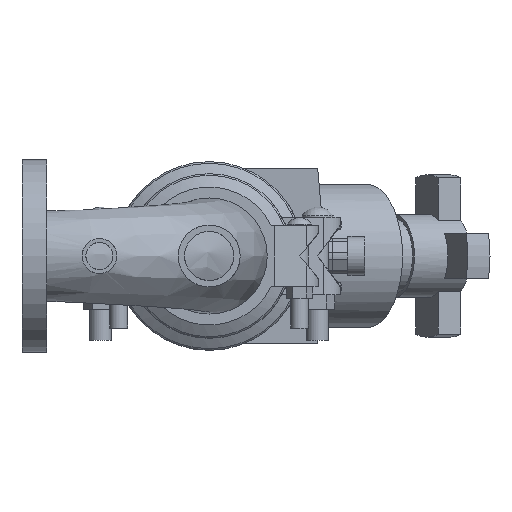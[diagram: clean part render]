
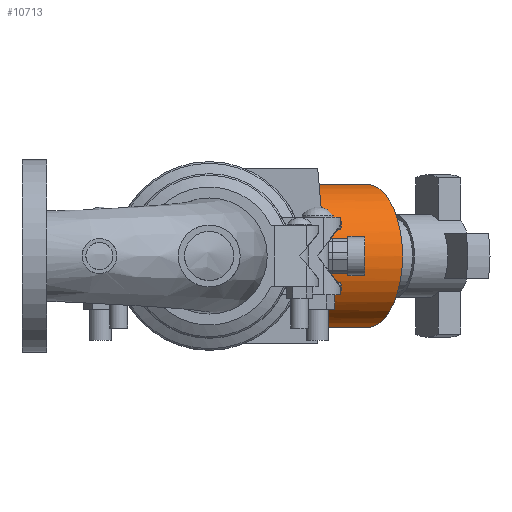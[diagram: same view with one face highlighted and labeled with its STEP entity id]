
A CAD part, front view. The second image highlights one B-rep face of the part: STEP entity #10713.
In plain terms, the highlighted cylindrical face has radius 70.65 mm (diameter 141.3 mm), a full revolution.
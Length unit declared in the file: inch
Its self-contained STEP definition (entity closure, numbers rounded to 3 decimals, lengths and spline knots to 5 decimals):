
#283=ELLIPSE('',#11785,5.563,2.7815);
#284=ELLIPSE('',#11786,3.2118,2.7815);
#285=ELLIPSE('',#11787,3.2118,2.7815);
#286=ELLIPSE('',#11788,5.563,2.7815);
#712=LINE('',#17922,#1492);
#1492=VECTOR('',#13938,2.7815);
#1996=CYLINDRICAL_SURFACE('',#11806,2.7815);
#2462=FACE_OUTER_BOUND('',#3071,.T.);
#3071=EDGE_LOOP('',(#7955,#7956,#7957,#7958,#7959,#7960,#7961,#7962));
#3634=CIRCLE('',#11730,2.7815);
#3635=CIRCLE('',#11731,2.7815);
#4402=VERTEX_POINT('',#17742);
#4403=VERTEX_POINT('',#17743);
#4453=VERTEX_POINT('',#17883);
#4454=VERTEX_POINT('',#17885);
#4455=VERTEX_POINT('',#17887);
#4456=VERTEX_POINT('',#17890);
#5635=EDGE_CURVE('',#4402,#4403,#3634,.T.);
#5636=EDGE_CURVE('',#4403,#4402,#3635,.T.);
#5704=EDGE_CURVE('',#4453,#4454,#283,.T.);
#5705=EDGE_CURVE('',#4454,#4455,#284,.T.);
#5707=EDGE_CURVE('',#4455,#4456,#285,.T.);
#5708=EDGE_CURVE('',#4456,#4453,#286,.T.);
#5722=EDGE_CURVE('',#4453,#4403,#712,.T.);
#7955=ORIENTED_EDGE('',*,*,#5708,.F.);
#7956=ORIENTED_EDGE('',*,*,#5707,.F.);
#7957=ORIENTED_EDGE('',*,*,#5705,.F.);
#7958=ORIENTED_EDGE('',*,*,#5704,.F.);
#7959=ORIENTED_EDGE('',*,*,#5722,.T.);
#7960=ORIENTED_EDGE('',*,*,#5636,.T.);
#7961=ORIENTED_EDGE('',*,*,#5635,.T.);
#7962=ORIENTED_EDGE('',*,*,#5722,.F.);
#10713=ADVANCED_FACE('',(#2462),#1996,.T.);
#11730=AXIS2_PLACEMENT_3D('',#17744,#13744,#13745);
#11731=AXIS2_PLACEMENT_3D('',#17745,#13746,#13747);
#11785=AXIS2_PLACEMENT_3D('',#17886,#13890,#13891);
#11786=AXIS2_PLACEMENT_3D('',#17888,#13892,#13893);
#11787=AXIS2_PLACEMENT_3D('',#17891,#13895,#13896);
#11788=AXIS2_PLACEMENT_3D('',#17892,#13897,#13898);
#11806=AXIS2_PLACEMENT_3D('',#17921,#13936,#13937);
#13744=DIRECTION('center_axis',(-0.5,0.866,0.));
#13745=DIRECTION('ref_axis',(-0.866,-0.5,0.));
#13746=DIRECTION('center_axis',(-0.5,0.866,0.));
#13747=DIRECTION('ref_axis',(-0.866,-0.5,0.));
#13890=DIRECTION('center_axis',(0.5,0.866,0.));
#13891=DIRECTION('ref_axis',(-0.866,0.5,0.));
#13892=DIRECTION('center_axis',(-0.866,0.5,0.));
#13893=DIRECTION('ref_axis',(-0.5,-0.866,0.));
#13895=DIRECTION('center_axis',(-0.866,0.5,0.));
#13896=DIRECTION('ref_axis',(-0.5,-0.866,0.));
#13897=DIRECTION('center_axis',(0.5,0.866,0.));
#13898=DIRECTION('ref_axis',(-0.866,0.5,0.));
#13936=DIRECTION('center_axis',(-0.5,0.866,0.));
#13937=DIRECTION('ref_axis',(-0.866,-0.5,0.));
#13938=DIRECTION('',(0.5,-0.866,0.));
#17742=CARTESIAN_POINT('',(-2.25885,-7.49146,0.));
#17743=CARTESIAN_POINT('',(2.55885,-4.70996,0.));
#17744=CARTESIAN_POINT('Origin',(0.15,-6.10071,0.));
#17745=CARTESIAN_POINT('Origin',(0.15,-6.10071,0.));
#17883=CARTESIAN_POINT('',(1.44546,-2.7815,0.));
#17885=CARTESIAN_POINT('',(-3.37224,0.,-2.7815));
#17886=CARTESIAN_POINT('Origin',(-3.37224,0.,
0.));
#17887=CARTESIAN_POINT('',(-4.97814,-2.7815,0.));
#17888=CARTESIAN_POINT('Origin',(-3.37224,0.,
0.));
#17890=CARTESIAN_POINT('',(-3.37224,0.,2.7815));
#17891=CARTESIAN_POINT('Origin',(-3.37224,0.,
0.));
#17892=CARTESIAN_POINT('Origin',(-3.37224,0.,
0.));
#17921=CARTESIAN_POINT('Origin',(0.25,-6.27391,0.));
#17922=CARTESIAN_POINT('',(2.65885,-4.88316,0.));
